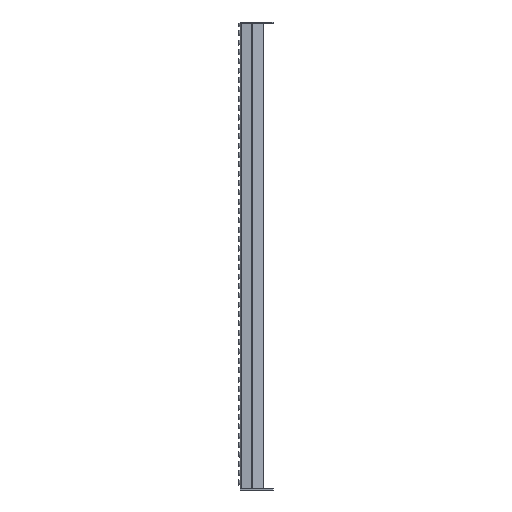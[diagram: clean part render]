
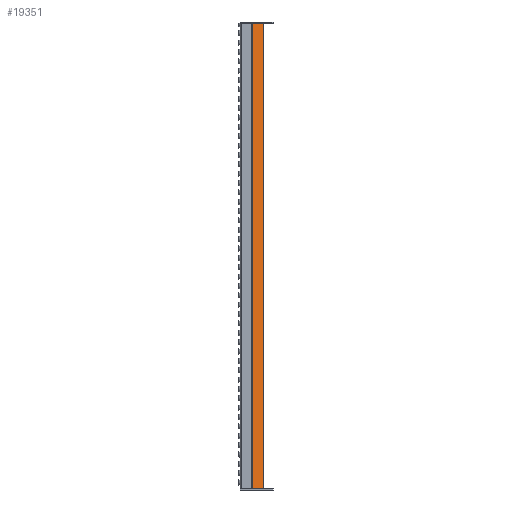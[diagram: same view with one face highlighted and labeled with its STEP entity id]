
A CAD part, left-side view. The second image highlights one B-rep face of the part: STEP entity #19351.
In plain terms, the highlighted planar face has unit normal (-0.94, -0.342, 0).
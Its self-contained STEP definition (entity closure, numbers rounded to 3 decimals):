
#2374=FACE_OUTER_BOUND('',#3765,.T.);
#3765=EDGE_LOOP('',(#15638,#15639,#15640,#15641));
#5056=LINE('',#34306,#7100);
#5075=LINE('',#34353,#7119);
#5077=LINE('',#34359,#7121);
#5081=LINE('',#34366,#7125);
#7100=VECTOR('',#24751,10.);
#7119=VECTOR('',#24794,10.);
#7121=VECTOR('',#24800,10.);
#7125=VECTOR('',#24808,10.);
#9278=VERTEX_POINT('',#34303);
#9279=VERTEX_POINT('',#34305);
#9295=VERTEX_POINT('',#34352);
#9297=VERTEX_POINT('',#34358);
#11511=EDGE_CURVE('',#9279,#9278,#5056,.T.);
#11535=EDGE_CURVE('',#9278,#9295,#5075,.T.);
#11538=EDGE_CURVE('',#9297,#9279,#5077,.T.);
#11542=EDGE_CURVE('',#9295,#9297,#5081,.T.);
#15638=ORIENTED_EDGE('',*,*,#11535,.T.);
#15639=ORIENTED_EDGE('',*,*,#11542,.T.);
#15640=ORIENTED_EDGE('',*,*,#11538,.T.);
#15641=ORIENTED_EDGE('',*,*,#11511,.T.);
#18182=PLANE('',#21072);
#19351=ADVANCED_FACE('',(#2374),#18182,.T.);
#21072=AXIS2_PLACEMENT_3D('',#34365,#24806,#24807);
#24751=DIRECTION('',(-0.342,0.94,0.));
#24794=DIRECTION('',(0.,0.,-1.));
#24800=DIRECTION('',(0.,0.,1.));
#24806=DIRECTION('center_axis',(-0.94,-0.342,0.));
#24807=DIRECTION('ref_axis',(0.,0.,1.));
#24808=DIRECTION('',(0.342,-0.94,0.));
#34303=CARTESIAN_POINT('',(0.196,-25.539,994.));
#34305=CARTESIAN_POINT('',(9.099,-50.,994.));
#34306=CARTESIAN_POINT('',(0.,-25.,994.));
#34352=CARTESIAN_POINT('',(0.196,-25.539,0.));
#34353=CARTESIAN_POINT('',(0.196,-25.539,0.));
#34358=CARTESIAN_POINT('',(9.099,-50.,0.));
#34359=CARTESIAN_POINT('',(9.099,-50.,0.));
#34365=CARTESIAN_POINT('Origin',(9.099,-50.,0.));
#34366=CARTESIAN_POINT('',(0.,-25.,0.));
